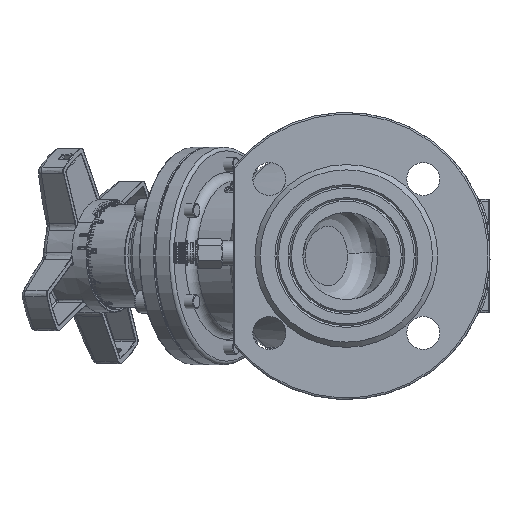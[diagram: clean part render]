
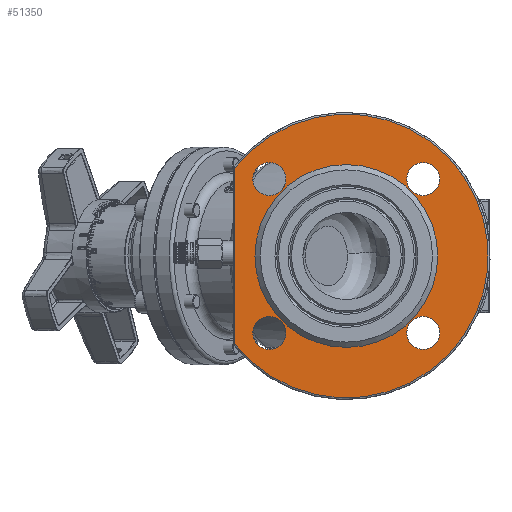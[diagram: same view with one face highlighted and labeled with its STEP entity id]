
A CAD part, left-side view. The second image highlights one B-rep face of the part: STEP entity #51350.
In plain terms, the highlighted planar face has unit normal (-1, 0, 0).
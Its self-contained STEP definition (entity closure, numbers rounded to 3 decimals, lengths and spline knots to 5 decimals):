
#273=PLANE('',#55123);
#2193=FACE_BOUND('',#9193,.T.);
#2194=FACE_BOUND('',#9194,.T.);
#2195=FACE_BOUND('',#9195,.T.);
#2196=FACE_BOUND('',#9196,.T.);
#2197=FACE_BOUND('',#9197,.T.);
#5905=FACE_OUTER_BOUND('',#9192,.T.);
#9192=EDGE_LOOP('',(#35890,#35891));
#9193=EDGE_LOOP('',(#35892));
#9194=EDGE_LOOP('',(#35893));
#9195=EDGE_LOOP('',(#35894));
#9196=EDGE_LOOP('',(#35895));
#9197=EDGE_LOOP('',(#35896));
#12759=LINE('',#94787,#16103);
#16103=VECTOR('',#60640,1.);
#19355=CIRCLE('',#54812,0.0095);
#19357=CIRCLE('',#54815,0.0095);
#19359=CIRCLE('',#54818,0.0095);
#19361=CIRCLE('',#54821,0.0095);
#19378=CIRCLE('',#54845,0.0815);
#19424=CIRCLE('',#54907,0.0525);
#21883=VERTEX_POINT('',#74156);
#21885=VERTEX_POINT('',#74162);
#21887=VERTEX_POINT('',#74168);
#21889=VERTEX_POINT('',#74174);
#21906=VERTEX_POINT('',#74220);
#21907=VERTEX_POINT('',#74221);
#21972=VERTEX_POINT('',#75384);
#26999=EDGE_CURVE('',#21883,#21883,#19355,.T.);
#27002=EDGE_CURVE('',#21885,#21885,#19357,.T.);
#27005=EDGE_CURVE('',#21887,#21887,#19359,.T.);
#27008=EDGE_CURVE('',#21889,#21889,#19361,.T.);
#27029=EDGE_CURVE('',#21906,#21907,#19378,.T.);
#27106=EDGE_CURVE('',#21972,#21972,#19424,.T.);
#27696=EDGE_CURVE('',#21907,#21906,#12759,.T.);
#35890=ORIENTED_EDGE('',*,*,#27696,.T.);
#35891=ORIENTED_EDGE('',*,*,#27029,.T.);
#35892=ORIENTED_EDGE('',*,*,#27106,.F.);
#35893=ORIENTED_EDGE('',*,*,#26999,.F.);
#35894=ORIENTED_EDGE('',*,*,#27002,.F.);
#35895=ORIENTED_EDGE('',*,*,#27005,.F.);
#35896=ORIENTED_EDGE('',*,*,#27008,.F.);
#51350=ADVANCED_FACE('',(#5905,#2193,#2194,#2195,#2196,#2197),#273,.F.);
#54812=AXIS2_PLACEMENT_3D('',#74158,#59903,#59904);
#54815=AXIS2_PLACEMENT_3D('',#74164,#59910,#59911);
#54818=AXIS2_PLACEMENT_3D('',#74170,#59917,#59918);
#54821=AXIS2_PLACEMENT_3D('',#74176,#59924,#59925);
#54845=AXIS2_PLACEMENT_3D('',#74222,#59976,#59977);
#54907=AXIS2_PLACEMENT_3D('',#75385,#60105,#60106);
#55123=AXIS2_PLACEMENT_3D('',#94786,#60638,#60639);
#59903=DIRECTION('center_axis',(-1.,0.,0.));
#59904=DIRECTION('ref_axis',(0.,0.,-1.));
#59910=DIRECTION('center_axis',(-1.,0.,0.));
#59911=DIRECTION('ref_axis',(0.,0.,-1.));
#59917=DIRECTION('center_axis',(-1.,0.,0.));
#59918=DIRECTION('ref_axis',(0.,0.,-1.));
#59924=DIRECTION('center_axis',(-1.,0.,0.));
#59925=DIRECTION('ref_axis',(0.,0.,-1.));
#59976=DIRECTION('center_axis',(-1.,0.,0.));
#59977=DIRECTION('ref_axis',(0.,0.,-1.));
#60105=DIRECTION('center_axis',(-1.,0.,0.));
#60106=DIRECTION('ref_axis',(0.,0.,1.));
#60638=DIRECTION('center_axis',(1.,0.,0.));
#60639=DIRECTION('ref_axis',(0.,0.,-1.));
#60640=DIRECTION('',(0.,0.,-1.));
#74156=CARTESIAN_POINT('',(-0.112,0.04419,0.03469));
#74158=CARTESIAN_POINT('Origin',(-0.112,0.04419,0.04419));
#74162=CARTESIAN_POINT('',(-0.112,-0.04419,0.03469));
#74164=CARTESIAN_POINT('Origin',(-0.112,-0.04419,0.04419));
#74168=CARTESIAN_POINT('',(-0.112,-0.04419,-0.05369));
#74170=CARTESIAN_POINT('Origin',(-0.112,-0.04419,-0.04419));
#74174=CARTESIAN_POINT('',(-0.112,0.04419,-0.05369));
#74176=CARTESIAN_POINT('Origin',(-0.112,0.04419,-0.04419));
#74220=CARTESIAN_POINT('',(-0.112,0.064,-0.05046));
#74221=CARTESIAN_POINT('',(-0.112,0.064,0.05046));
#74222=CARTESIAN_POINT('Origin',(-0.112,0.,0.));
#75384=CARTESIAN_POINT('',(-0.112,0.,0.0525));
#75385=CARTESIAN_POINT('Origin',(-0.112,0.,0.));
#94786=CARTESIAN_POINT('Origin',(-0.112,0.0825,0.));
#94787=CARTESIAN_POINT('',(-0.112,0.064,0.));
